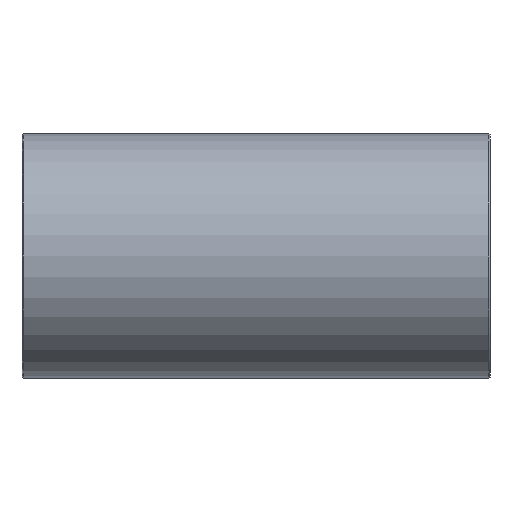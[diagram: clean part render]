
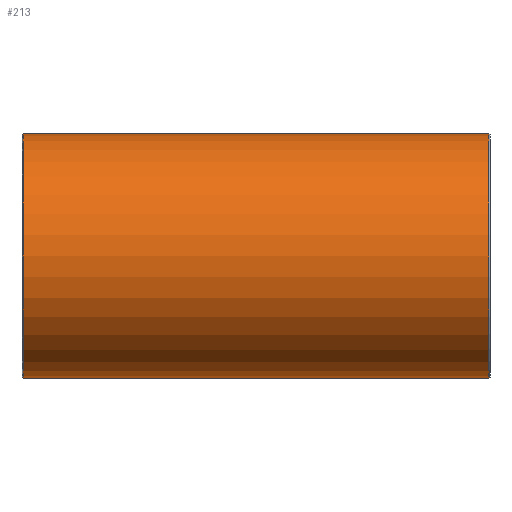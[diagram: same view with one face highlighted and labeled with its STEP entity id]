
A CAD part, front view. The second image highlights one B-rep face of the part: STEP entity #213.
In plain terms, the highlighted cylindrical face has radius 19.85 mm (diameter 39.7 mm), a full revolution.
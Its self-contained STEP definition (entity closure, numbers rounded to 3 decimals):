
#73=CARTESIAN_POINT('',(37.8,19.85,0.));
#74=VERTEX_POINT('',#73);
#75=CARTESIAN_POINT('',(37.8,0.0,0.0));
#76=DIRECTION('',(1.0,0.0,0.0));
#77=DIRECTION('',(0.0,-1.0,0.0));
#78=AXIS2_PLACEMENT_3D('',#75,#76,#77);
#79=CIRCLE('',#78,19.85);
#80=EDGE_CURVE('',#74,#74,#79,.T.);
#116=CARTESIAN_POINT('',(0.,0.0,0.0));
#117=DIRECTION('',(1.0,0.0,0.0));
#118=DIRECTION('',(0.0,1.0,0.0));
#119=AXIS2_PLACEMENT_3D('',#116,#117,#118);
#120=CYLINDRICAL_SURFACE('',#119,19.85);
#121=CARTESIAN_POINT('',(-37.8,19.85,0.));
#122=VERTEX_POINT('',#121);
#123=CARTESIAN_POINT('',(-37.8,0.0,0.0));
#124=DIRECTION('',(-1.0,0.0,0.0));
#125=DIRECTION('',(0.0,-1.0,0.0));
#126=AXIS2_PLACEMENT_3D('',#123,#124,#125);
#127=CIRCLE('',#126,19.85);
#128=EDGE_CURVE('',#122,#122,#127,.T.);
#129=ORIENTED_EDGE('',*,*,#128,.F.);
#130=EDGE_LOOP('',(#129));
#131=FACE_OUTER_BOUND('',#130,.T.);
#132=CARTESIAN_POINT('',(0.,15.755,12.075));
#133=VERTEX_POINT('',#132);
#134=CARTESIAN_POINT('',(0.,15.755,12.075));
#135=CARTESIAN_POINT('',(0.,15.755,12.075));
#136=CARTESIAN_POINT('',(0.,15.755,12.075));
#137=CARTESIAN_POINT('',(0.,15.755,12.075));
#138=CARTESIAN_POINT('',(0.266,15.755,12.075));
#139=CARTESIAN_POINT('',(0.932,15.768,12.058));
#140=CARTESIAN_POINT('',(1.987,15.838,11.966));
#141=CARTESIAN_POINT('',(3.291,15.998,11.753));
#142=CARTESIAN_POINT('',(4.679,16.255,11.397));
#143=CARTESIAN_POINT('',(5.983,16.58,10.92));
#144=CARTESIAN_POINT('',(7.113,16.917,10.391));
#145=CARTESIAN_POINT('',(7.968,17.205,9.906));
#146=CARTESIAN_POINT('',(9.29,17.687,9.039));
#147=CARTESIAN_POINT('',(10.543,18.213,7.955));
#148=CARTESIAN_POINT('',(11.555,18.679,6.734));
#149=CARTESIAN_POINT('',(12.091,18.934,5.97));
#150=CARTESIAN_POINT('',(12.577,19.171,5.181));
#151=CARTESIAN_POINT('',(13.111,19.439,4.088));
#152=CARTESIAN_POINT('',(13.601,19.693,2.649));
#153=CARTESIAN_POINT('',(13.853,19.825,1.28));
#154=CARTESIAN_POINT('',(13.923,19.862,-0.11));
#155=CARTESIAN_POINT('',(13.839,19.817,-1.389));
#156=CARTESIAN_POINT('',(13.566,19.674,-2.749));
#157=CARTESIAN_POINT('',(13.116,19.442,-4.076));
#158=CARTESIAN_POINT('',(12.57,19.167,-5.196));
#159=CARTESIAN_POINT('',(11.838,18.811,-6.377));
#160=CARTESIAN_POINT('',(10.963,18.403,-7.478));
#161=CARTESIAN_POINT('',(10.052,18.01,-8.357));
#162=CARTESIAN_POINT('',(9.074,17.611,-9.172));
#163=CARTESIAN_POINT('',(7.892,17.165,-9.992));
#164=CARTESIAN_POINT('',(6.417,16.698,-10.741));
#165=CARTESIAN_POINT('',(5.157,16.373,-11.225));
#166=CARTESIAN_POINT('',(4.101,16.143,-11.553));
#167=CARTESIAN_POINT('',(3.084,15.973,-11.786));
#168=CARTESIAN_POINT('',(1.691,15.806,-12.009));
#169=CARTESIAN_POINT('',(0.364,15.737,-12.099));
#170=CARTESIAN_POINT('',(-0.928,15.769,-12.056));
#171=CARTESIAN_POINT('',(-1.633,15.816,-11.994));
#172=CARTESIAN_POINT('',(-2.681,15.912,-11.868));
#173=CARTESIAN_POINT('',(-4.187,16.139,-11.563));
#174=CARTESIAN_POINT('',(-5.723,16.509,-11.028));
#175=CARTESIAN_POINT('',(-6.627,16.772,-10.618));
#176=CARTESIAN_POINT('',(-7.217,16.954,-10.326));
#177=CARTESIAN_POINT('',(-8.149,17.262,-9.814));
#178=CARTESIAN_POINT('',(-9.479,17.765,-8.891));
#179=CARTESIAN_POINT('',(-10.689,18.283,-7.764));
#180=CARTESIAN_POINT('',(-11.492,18.65,-6.813));
#181=CARTESIAN_POINT('',(-12.039,18.909,-6.053));
#182=CARTESIAN_POINT('',(-12.488,19.128,-5.327));
#183=CARTESIAN_POINT('',(-12.947,19.357,-4.433));
#184=CARTESIAN_POINT('',(-13.291,19.532,-3.575));
#185=CARTESIAN_POINT('',(-13.653,19.72,-2.389));
#186=CARTESIAN_POINT('',(-13.858,19.828,-1.24));
#187=CARTESIAN_POINT('',(-13.908,19.854,-0.124));
#188=CARTESIAN_POINT('',(-13.892,19.846,0.495));
#189=CARTESIAN_POINT('',(-13.825,19.811,1.423));
#190=CARTESIAN_POINT('',(-13.589,19.686,2.754));
#191=CARTESIAN_POINT('',(-13.085,19.426,4.141));
#192=CARTESIAN_POINT('',(-12.529,19.148,5.255));
#193=CARTESIAN_POINT('',(-12.046,18.912,6.053));
#194=CARTESIAN_POINT('',(-11.451,18.631,6.864));
#195=CARTESIAN_POINT('',(-10.663,18.272,7.782));
#196=CARTESIAN_POINT('',(-9.74,17.876,8.65));
#197=CARTESIAN_POINT('',(-8.588,17.426,9.518));
#198=CARTESIAN_POINT('',(-7.457,17.024,10.219));
#199=CARTESIAN_POINT('',(-6.002,16.578,10.927));
#200=CARTESIAN_POINT('',(-4.549,16.226,11.438));
#201=CARTESIAN_POINT('',(-3.036,15.96,11.804));
#202=CARTESIAN_POINT('',(-1.601,15.796,12.021));
#203=CARTESIAN_POINT('',(-0.531,15.755,12.075));
#204=CARTESIAN_POINT('',(0.,15.755,12.075));
#205=B_SPLINE_CURVE_WITH_KNOTS('',3,(#134,#135,#136,#137,#138,#139,#140,#141,#142,#143,#144,#145,#146,#147,#148,#149,#150,#151,#152,#153,#154,#155,#156,#157,#158,#159,#160,#161,#162,#163,#164,#165,#166,#167,#168,#169,#170,#171,#172,#173,#174,#175,#176,#177,#178,#179,#180,#181,#182,#183,#184,#185,#186,#187,#188,#189,#190,#191,#192,#193,#194,#195,#196,#197,#198,#199,#200,#201,#202,#203,#204),.UNSPECIFIED.,.T.,.U.,(4,3,1,1,1,1,1,1,1,1,1,1,1,1,1,1,1,1,1,1,1,1,1,1,1,1,1,1,1,1,1,1,1,1,1,1,1,1,1,1,1,1,1,1,1,1,1,1,1,1,1,1,1,1,1,1,1,1,1,1,1,1,1,1,1,1,4),(-6.737,-6.737,-6.677,-6.586,-6.496,-6.376,-6.256,-6.165,-6.075,-6.015,-5.774,-5.654,-5.609,-5.534,-5.414,-5.293,-5.143,-5.053,-4.932,-4.812,-4.692,-4.571,-4.491,-4.331,-4.211,-4.17,-4.01,-3.85,-3.769,-3.689,-3.589,-3.529,-3.368,-3.288,-3.238,-3.208,-3.048,-2.887,-2.827,-2.807,-2.727,-2.566,-2.406,-2.306,-2.246,-2.165,-2.085,-1.985,-1.925,-1.764,-1.684,-1.634,-1.604,-1.444,-1.283,-1.223,-1.123,-1.043,-0.962,-0.812,-0.722,-0.602,-0.481,-0.331,-0.241,-0.12,0.),.UNSPECIFIED.);
#206=EDGE_CURVE('',#133,#133,#205,.T.);
#207=ORIENTED_EDGE('',*,*,#206,.F.);
#208=EDGE_LOOP('',(#207));
#209=FACE_BOUND('',#208,.T.);
#210=ORIENTED_EDGE('',*,*,#80,.F.);
#211=EDGE_LOOP('',(#210));
#212=FACE_BOUND('',#211,.T.);
#213=ADVANCED_FACE('',(#131,#209,#212),#120,.T.);
